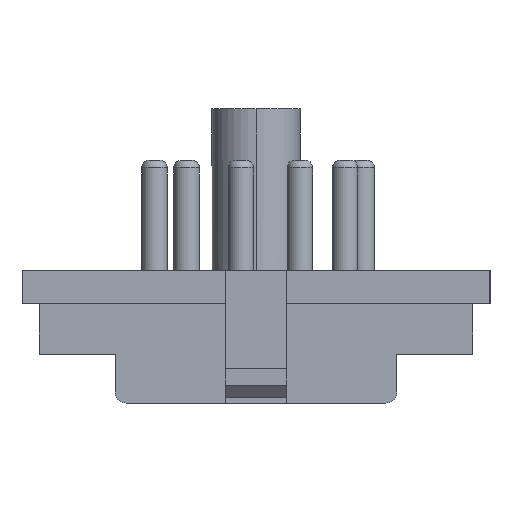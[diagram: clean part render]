
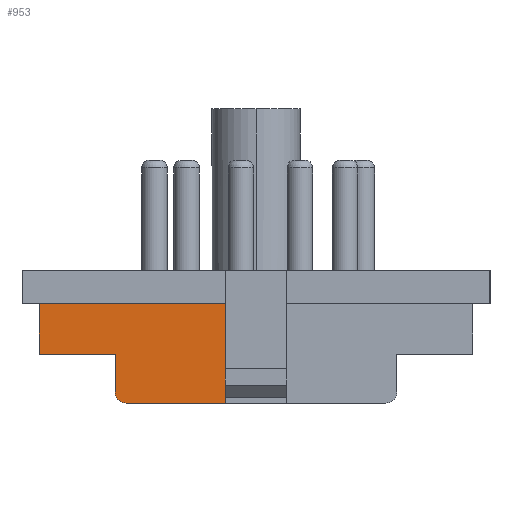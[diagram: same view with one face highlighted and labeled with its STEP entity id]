
A CAD part, left-side view. The second image highlights one B-rep face of the part: STEP entity #953.
In plain terms, the highlighted planar face has unit normal (-1, 0, 0).
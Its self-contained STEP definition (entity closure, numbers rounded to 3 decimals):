
#28 = VECTOR ( 'NONE', #1464, 1000. ) ;
#139 = EDGE_CURVE ( 'NONE', #484, #4629, #5108, .T. ) ;
#444 = LINE ( 'NONE', #4174, #4770 ) ;
#484 = VERTEX_POINT ( 'NONE', #5046 ) ;
#623 = VECTOR ( 'NONE', #3340, 1000. ) ;
#634 = VERTEX_POINT ( 'NONE', #3711 ) ;
#774 = CARTESIAN_POINT ( 'NONE',  ( -38.75, 2.75, -8.8 ) ) ;
#818 = CARTESIAN_POINT ( 'NONE',  ( -38.75, 12.65, -10.9 ) ) ;
#837 = DIRECTION ( 'NONE',  ( 0., 1., 0. ) ) ;
#855 = VECTOR ( 'NONE', #4218, 1000. ) ;
#953 = ADVANCED_FACE ( 'NONE', ( #2871 ), #2226, .F. ) ;
#1038 = CARTESIAN_POINT ( 'NONE',  ( -38.75, 2.75, -7.5 ) ) ;
#1039 = CARTESIAN_POINT ( 'NONE',  ( -38.75, 12.65, -3. ) ) ;
#1042 = CARTESIAN_POINT ( 'NONE',  ( -38.75, 19.45, -7.5 ) ) ;
#1129 = VECTOR ( 'NONE', #3238, 1000. ) ;
#1149 = DIRECTION ( 'NONE',  ( 0., 0., 1. ) ) ;
#1255 = EDGE_CURVE ( 'NONE', #1319, #2610, #4828, .T. ) ;
#1300 = LINE ( 'NONE', #2467, #623 ) ;
#1319 = VERTEX_POINT ( 'NONE', #818 ) ;
#1408 = ORIENTED_EDGE ( 'NONE', *, *, #1743, .T. ) ;
#1438 = CARTESIAN_POINT ( 'NONE',  ( -38.75, 11.65, -10.9 ) ) ;
#1464 = DIRECTION ( 'NONE',  ( 0., 0., -1. ) ) ;
#1559 = VECTOR ( 'NONE', #4221, 1000. ) ;
#1574 = VERTEX_POINT ( 'NONE', #2372 ) ;
#1743 = EDGE_CURVE ( 'NONE', #5276, #4338, #1300, .T. ) ;
#1806 = EDGE_CURVE ( 'NONE', #634, #1574, #4642, .T. ) ;
#1887 = ORIENTED_EDGE ( 'NONE', *, *, #5327, .F. ) ;
#2005 = AXIS2_PLACEMENT_3D ( 'NONE', #1438, #4082, #4112 ) ;
#2020 = CIRCLE ( 'NONE', #2005, 1. ) ;
#2102 = LINE ( 'NONE', #4073, #855 ) ;
#2132 = DIRECTION ( 'NONE',  ( 0., 0., -1. ) ) ;
#2147 = DIRECTION ( 'NONE',  ( 1., 0., 0. ) ) ;
#2201 = LINE ( 'NONE', #3224, #1129 ) ;
#2226 = PLANE ( 'NONE',  #2632 ) ;
#2262 = CARTESIAN_POINT ( 'NONE',  ( -38.75, 19.45, -7.5 ) ) ;
#2372 = CARTESIAN_POINT ( 'NONE',  ( -38.75, 11.65, -11.9 ) ) ;
#2467 = CARTESIAN_POINT ( 'NONE',  ( -38.75, 19.45, -3. ) ) ;
#2610 = VERTEX_POINT ( 'NONE', #4992 ) ;
#2632 = AXIS2_PLACEMENT_3D ( 'NONE', #2262, #2147, #2132 ) ;
#2698 = CARTESIAN_POINT ( 'NONE',  ( -38.75, 19.45, -3. ) ) ;
#2736 = ORIENTED_EDGE ( 'NONE', *, *, #1255, .F. ) ;
#2830 = ORIENTED_EDGE ( 'NONE', *, *, #139, .T. ) ;
#2871 = FACE_OUTER_BOUND ( 'NONE', #4826, .T. ) ;
#3063 = ORIENTED_EDGE ( 'NONE', *, *, #3824, .F. ) ;
#3224 = CARTESIAN_POINT ( 'NONE',  ( -38.75, 2.75, -7.5 ) ) ;
#3238 = DIRECTION ( 'NONE',  ( 0., 0., -1. ) ) ;
#3286 = VECTOR ( 'NONE', #1149, 1000. ) ;
#3295 = LINE ( 'NONE', #1038, #28 ) ;
#3340 = DIRECTION ( 'NONE',  ( 0., 1., 0. ) ) ;
#3364 = VERTEX_POINT ( 'NONE', #1042 ) ;
#3376 = VECTOR ( 'NONE', #837, 1000. ) ;
#3536 = ORIENTED_EDGE ( 'NONE', *, *, #4783, .F. ) ;
#3558 = EDGE_CURVE ( 'NONE', #3364, #4338, #2102, .T. ) ;
#3707 = ORIENTED_EDGE ( 'NONE', *, *, #3558, .F. ) ;
#3711 = CARTESIAN_POINT ( 'NONE',  ( -38.75, 2.75, -11.9 ) ) ;
#3824 = EDGE_CURVE ( 'NONE', #484, #634, #3295, .T. ) ;
#3992 = DIRECTION ( 'NONE',  ( 0., 1., 0. ) ) ;
#4024 = CARTESIAN_POINT ( 'NONE',  ( -38.75, 2.75, -7.5 ) ) ;
#4073 = CARTESIAN_POINT ( 'NONE',  ( -38.75, 19.45, -7.5 ) ) ;
#4082 = DIRECTION ( 'NONE',  ( 1., 0., 0. ) ) ;
#4112 = DIRECTION ( 'NONE',  ( 0., 0., -1. ) ) ;
#4129 = CARTESIAN_POINT ( 'NONE',  ( -38.75, 2.75, -3. ) ) ;
#4174 = CARTESIAN_POINT ( 'NONE',  ( -38.75, 19.45, -7.5 ) ) ;
#4218 = DIRECTION ( 'NONE',  ( 0., 0., 1. ) ) ;
#4221 = DIRECTION ( 'NONE',  ( 0., 0., 1. ) ) ;
#4258 = EDGE_CURVE ( 'NONE', #5276, #4629, #2201, .T. ) ;
#4338 = VERTEX_POINT ( 'NONE', #2698 ) ;
#4616 = CARTESIAN_POINT ( 'NONE',  ( -38.75, 11.65, -11.9 ) ) ;
#4629 = VERTEX_POINT ( 'NONE', #774 ) ;
#4641 = ORIENTED_EDGE ( 'NONE', *, *, #4258, .F. ) ;
#4642 = LINE ( 'NONE', #4616, #3376 ) ;
#4770 = VECTOR ( 'NONE', #3992, 1000. ) ;
#4783 = EDGE_CURVE ( 'NONE', #1574, #1319, #2020, .T. ) ;
#4826 = EDGE_LOOP ( 'NONE', ( #4641, #1408, #3707, #1887, #2736, #3536, #4847, #3063, #2830 ) ) ;
#4828 = LINE ( 'NONE', #1039, #3286 ) ;
#4847 = ORIENTED_EDGE ( 'NONE', *, *, #1806, .F. ) ;
#4992 = CARTESIAN_POINT ( 'NONE',  ( -38.75, 12.65, -7.5 ) ) ;
#5046 = CARTESIAN_POINT ( 'NONE',  ( -38.75, 2.75, -11.24 ) ) ;
#5108 = LINE ( 'NONE', #4024, #1559 ) ;
#5276 = VERTEX_POINT ( 'NONE', #4129 ) ;
#5327 = EDGE_CURVE ( 'NONE', #2610, #3364, #444, .T. ) ;
